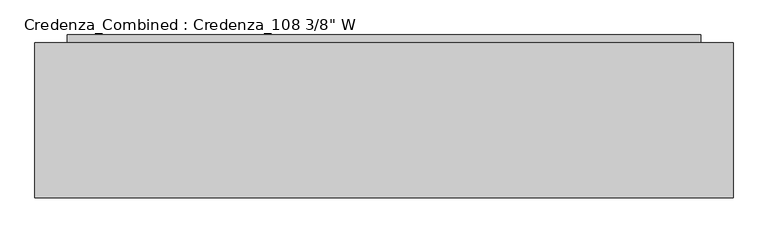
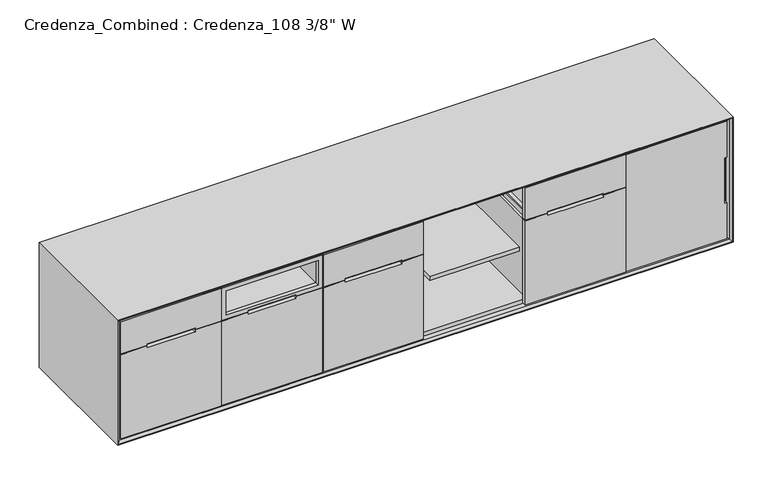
"""IFC4 building model written with IfcOpenShell, lengths in millimetres: furniture geometry."""

import ifcopenshell
import ifcopenshell.guid

model = None  # the IFC model being written
_history = None  # IfcOwnerHistory: only IFC2X3 demands one
_inside = {}  # id of a spatial element -> (the spatial element, [elements in it])
_under = {}  # id of a project, library or spatial element -> (it, [spatial elements below it])
_declared = {}  # id of a project -> (the project, [libraries it declares])
_typed = {}  # id of a type object -> (the type object, [elements of that type])
_made_of = {}  # id of a material, layer set ... -> (it, [elements and type objects made of it])


def new_model(schema):
    """Start an empty IFC model of exactly this schema.

    Asked for "IFC4X3", IfcOpenShell would pick the latest addendum, in which some entities
    have other attributes; the version numbers below select the first issue.
    IFC2X3 requires an IfcOwnerHistory on every rooted entity: one is made here for all.
    """
    global model, _history
    if schema == "IFC4X3":
        model = ifcopenshell.file(schema_version=(4, 3, 0, 0))
    else:
        model = ifcopenshell.file(schema=schema)
    _inside.clear()
    _under.clear()
    _declared.clear()
    _typed.clear()
    _made_of.clear()
    _history = None
    if model.schema == "IFC2X3":
        org = make("IfcOrganization", Name="unknown")
        user = make(
            "IfcPersonAndOrganization",
            ThePerson=make("IfcPerson", FamilyName="unknown"),
            TheOrganization=org,
        )
        app = make(
            "IfcApplication",
            ApplicationDeveloper=org,
            Version="unknown",
            ApplicationFullName="unknown",
            ApplicationIdentifier="unknown",
        )
        _history = make(
            "IfcOwnerHistory",
            OwningUser=user,
            OwningApplication=app,
            ChangeAction="ADDED",
            CreationDate=0,
        )
    return model


def make(cls, **values):
    """One entity of the class cls with the attributes given. An attribute that is None is left unset."""
    return model.create_entity(
        cls, **{name: value for name, value in values.items() if value is not None}
    )


def rooted(cls, **values):
    """An entity with a GlobalId (a new one), such as an element, a storey or a relation."""
    return make(cls, GlobalId=ifcopenshell.guid.new(), OwnerHistory=_history, **values)


def si_unit(unit_type, name, prefix=None):
    """IfcSIUnit, for example si_unit("LENGTHUNIT", "METRE", prefix="MILLI")."""
    return make("IfcSIUnit", UnitType=unit_type, Prefix=prefix, Name=name)


def assignment(units):
    """IfcUnitAssignment: the units of a project."""
    return None if units is None else make("IfcUnitAssignment", Units=units)


def point(xyz):
    """IfcCartesianPoint."""
    return None if xyz is None else make("IfcCartesianPoint", Coordinates=xyz)


def direction(xyz):
    """IfcDirection."""
    return None if xyz is None else make("IfcDirection", DirectionRatios=xyz)


def frame(location, z_axis=None, x_axis=None):
    """IfcAxis2Placement3D, a coordinate frame: its origin and axes. An axis left out is left unset."""
    return make(
        "IfcAxis2Placement3D",
        Location=point(location),
        Axis=direction(z_axis),
        RefDirection=direction(x_axis),
    )


def origin():
    """The frame at (0, 0, 0) with its axes left unset."""
    return frame((0.0, 0.0, 0.0))


def origin_with_axes():
    """The frame at (0, 0, 0) with the z axis (0, 0, 1) and the x axis (1, 0, 0) written out."""
    return frame((0.0, 0.0, 0.0), z_axis=(0.0, 0.0, 1.0), x_axis=(1.0, 0.0, 0.0))


def place(relative_to, where):
    """IfcLocalPlacement: puts the frame where relative to a parent placement (None: the world)."""
    return make(
        "IfcLocalPlacement", PlacementRelTo=relative_to, RelativePlacement=where
    )


def context(
    kind, dimensions, precision=None, world=None, true_north=None, identifier=None
):
    """IfcGeometricRepresentationContext, for example the 3D "Model" context."""
    return make(
        "IfcGeometricRepresentationContext",
        ContextIdentifier=identifier,
        ContextType=kind,
        CoordinateSpaceDimension=dimensions,
        Precision=precision,
        WorldCoordinateSystem=world,
        TrueNorth=true_north,
    )


def project(units=None, contexts=None):
    """IfcProject with its units and contexts."""
    return rooted(
        "IfcProject",
        Name="project",
        RepresentationContexts=contexts,
        UnitsInContext=assignment(units),
    )


def spatial(cls, under=None, at=None, **own):
    """A site, building, storey or space (cls), placed at a placement, below another one or the project."""
    s = rooted(cls, ObjectPlacement=at, **own)
    if under is not None:
        _under.setdefault(under.id(), (under, []))[1].append(s)
    return s


def polyline(points):
    """IfcPolyline through the points."""
    return make("IfcPolyline", Points=[point(p) for p in points])


def outline(outer, holes=None, kind="AREA"):
    """IfcArbitraryClosedProfileDef: a profile drawn as a closed curve; with holes, ...WithVoids."""
    if holes is None:
        return make("IfcArbitraryClosedProfileDef", ProfileType=kind, OuterCurve=outer)
    return make(
        "IfcArbitraryProfileDefWithVoids",
        ProfileType=kind,
        OuterCurve=outer,
        InnerCurves=holes,
    )


def extrude(swept, where, along, depth):
    """IfcExtrudedAreaSolid: the profile swept, set in the frame where, extruded along a direction by depth."""
    return make(
        "IfcExtrudedAreaSolid",
        SweptArea=swept,
        Position=where,
        ExtrudedDirection=direction(along),
        Depth=depth,
    )


def faces_of(points, faces, orient=None, outer=None):
    """IfcFace entities. A face is a list of loops; a loop is a list of indices into points, from 0.

    orient and outer hold one flag for each loop. By default every Orientation is true, the
    first loop of a face is its IfcFaceOuterBound and the others are IfcFaceBound.
    """
    made = []
    for i, loops in enumerate(faces):
        bounds = []
        for j, loop in enumerate(loops):
            is_outer = j == 0 if outer is None else outer[i][j]
            bounds.append(
                make(
                    "IfcFaceOuterBound" if is_outer else "IfcFaceBound",
                    Bound=make("IfcPolyLoop", Polygon=[points[k] for k in loop]),
                    Orientation=True if orient is None else orient[i][j],
                )
            )
        made.append(make("IfcFace", Bounds=bounds))
    return made


def faceted_brep(points, faces, orient=None, outer=None, voids=None):
    """IfcFacetedBrep: a solid bounded by flat faces; with voids (closed shells), ...WithVoids."""
    shared = [point(p) for p in points]
    hull = make("IfcClosedShell", CfsFaces=faces_of(shared, faces, orient, outer))
    if voids is None:
        return make("IfcFacetedBrep", Outer=hull)
    return make(
        "IfcFacetedBrepWithVoids",
        Outer=hull,
        Voids=[
            make(cls, CfsFaces=faces_of(shared, fs, o, b)) for cls, fs, o, b in voids
        ],
    )


def shape(context_of_items, identifier, shape_type, items):
    """IfcShapeRepresentation: the items that make up one representation, for example the "Body"."""
    return make(
        "IfcShapeRepresentation",
        ContextOfItems=context_of_items,
        RepresentationIdentifier=identifier,
        RepresentationType=shape_type,
        Items=items,
    )


def source(mapping_origin, context_of_items, identifier, shape_type, items):
    """IfcRepresentationMap: a shape defined once, which mapped items show again and again."""
    return make(
        "IfcRepresentationMap",
        MappingOrigin=mapping_origin,
        MappedRepresentation=shape(context_of_items, identifier, shape_type, items),
    )


def transform(
    local_origin,
    x_axis=None,
    y_axis=None,
    z_axis=None,
    scale=None,
    scale2=None,
    scale3=None,
    uniform=True,
):
    """IfcCartesianTransformationOperator3D, or its non-uniform kind. x_axis, y_axis, z_axis: its Axis1, 2, 3."""
    if uniform:
        return make(
            "IfcCartesianTransformationOperator3D",
            Axis1=direction(x_axis),
            Axis2=direction(y_axis),
            LocalOrigin=point(local_origin),
            Scale=scale,
            Axis3=direction(z_axis),
        )
    return make(
        "IfcCartesianTransformationOperator3DnonUniform",
        Axis1=direction(x_axis),
        Axis2=direction(y_axis),
        LocalOrigin=point(local_origin),
        Scale=scale,
        Axis3=direction(z_axis),
        Scale2=scale2,
        Scale3=scale3,
    )


def mapped(mapping_source, mapping_target):
    """IfcMappedItem: shows the shape of a source again, moved by a transform."""
    return make(
        "IfcMappedItem", MappingSource=mapping_source, MappingTarget=mapping_target
    )


def made_of(thing, what):
    """Note that an element or type object is made of a material, layer set ...; save() writes the relation."""
    if what is not None:
        _made_of.setdefault(what.id(), (what, []))[1].append(thing)
    return thing


def element(
    cls,
    number,
    at=None,
    inside=None,
    cuts=None,
    type_object=None,
    material=None,
    context=None,
    identifier="Body",
    shape_type=None,
    held_by="IfcProductDefinitionShape",
    body=None,
    shapes=None,
    **own,
):
    """One element of the class cls, such as IfcWall. Its Tag is "e" and its number.

    at: its placement. inside: the storey or other place that contains it. cuts: it is an
    opening in that element (IfcRelVoidsElement). A single representation is given by context,
    identifier, shape_type and body (its items); several are given by shapes. held_by: the class
    of the entity that holds the representations. save() writes the other relations.
    """
    e = rooted(cls, Tag="e%d" % number, ObjectPlacement=at, **own)
    if body is not None:
        shapes = [shape(context, identifier, shape_type, body)]
    if shapes is not None:
        e.Representation = make(held_by, Representations=shapes)
    if inside is not None:
        _inside.setdefault(inside.id(), (inside, []))[1].append(e)
    if cuts is not None:
        rooted(
            "IfcRelVoidsElement", RelatingBuildingElement=cuts, RelatedOpeningElement=e
        )
    if type_object is not None:
        _typed.setdefault(type_object.id(), (type_object, []))[1].append(e)
    return made_of(e, material)


def aggregate(whole, parts):
    """IfcRelAggregates: a whole, such as a stair, and the parts it consists of."""
    return rooted("IfcRelAggregates", RelatingObject=whole, RelatedObjects=parts)


def save(model, path):
    """Write the relations noted so far, then the file.

    IfcRelAggregates (storeys below a building ...), IfcRelContainedInSpatialStructure (elements
    in a storey), IfcRelDefinesByType, IfcRelAssociatesMaterial and IfcRelDeclares: one each for
    every whole, place, type object, material and project.
    """
    for whole, parts in _under.values():
        aggregate(whole, parts)
    for where, things in _inside.values():
        rooted(
            "IfcRelContainedInSpatialStructure",
            RelatedElements=things,
            RelatingStructure=where,
        )
    for kind, things in _typed.values():
        rooted("IfcRelDefinesByType", RelatedObjects=things, RelatingType=kind)
    for what, things in _made_of.values():
        rooted("IfcRelAssociatesMaterial", RelatedObjects=things, RelatingMaterial=what)
    for by, libraries in _declared.values():
        rooted("IfcRelDeclares", RelatingContext=by, RelatedDefinitions=libraries)
    model.write(path)


def furniture_e53a78da(model_context):
    return source(origin(), model_context, "Body", "SolidModel", [
        faceted_brep([(2730.5, 28.575, 659.60625), (2281.2375, 28.575, 659.60625), (2281.2375, 9.525, 659.60625), (2730.5, 9.525, 659.60625), (2730.5, 28.575, 105.56875), (2730.5, 9.525, 105.56875), (2281.2375, 9.525, 105.56875), (2281.2375, 28.575, 105.56875), (2730.5, 9.525, 274.6375), (2717.8, 9.525, 274.6375), (2717.8, 9.525, 490.5375), (2730.5, 9.525, 490.5375), (2730.5, 25.4, 490.5375), (2730.5, 25.4, 274.6375), (2717.8, 25.4, 490.5375), (2717.8, 25.4, 274.6375)], [[[0, 1, 2, 3]], [[4, 5, 6, 7]], [[1, 0, 4, 7]], [[2, 1, 7, 6]], [[3, 2, 6, 5, 8, 9, 10, 11]], [[0, 3, 11, 12, 13, 8, 5, 4]], [[12, 14, 15, 13]], [[14, 12, 11, 10]], [[15, 14, 10, 9]], [[13, 15, 9, 8]]]),
        extrude(outline(polyline([(2730.5, 609.6), (2730.5, 28.575), (2281.2375, 28.575), (2281.2375, 609.6), (2730.5, 609.6)])), frame((0.0, 0.0, 382.5875), z_axis=(0.0, 0.0, 1.0), x_axis=(1.0, 0.0, 0.0)), (0.0, 0.0, 1.0), 19.05),
        faceted_brep([(2202.7832407, 93.4200979, 124.61875), (2202.7832407, 244.7174021, 124.61875), (1904.0792593, 244.7174021, 124.61875), (1904.0792593, 93.4200979, 124.61875), (2208.8091657, 250.7433271, 118.26875), (2208.8091657, 87.3941729, 118.26875), (1898.0533343, 87.3941729, 118.26875), (1898.0533343, 250.7433271, 118.26875), (2241.4345885, 283.36875, 492.91875), (2241.4345885, 283.36875, 499.26875), (2241.4345885, 54.76875, 499.26875), (2241.4345885, 54.76875, 492.91875), (2228.7345885, 270.66875, 492.91875), (2228.7345885, 67.46875, 492.91875), (2222.7086635, 264.642825, 499.26875), (2222.7086635, 73.494675, 499.26875), (1865.4279115, 54.76875, 499.26875), (1865.4279115, 54.76875, 492.91875), (1878.1279115, 67.46875, 492.91875), (1884.1538365, 73.494675, 499.26875), (1865.4279115, 283.36875, 499.26875), (1865.4279115, 283.36875, 492.91875), (1878.1279115, 270.66875, 492.91875), (1884.1538365, 264.642825, 499.26875)], [[[0, 1, 2, 3]], [[4, 5, 6, 7]], [[8, 9, 10, 11]], [[4, 12, 13, 5]], [[14, 1, 0, 15]], [[11, 10, 16, 17]], [[5, 13, 18, 6]], [[15, 0, 3, 19]], [[17, 16, 20, 21]], [[6, 18, 22, 7]], [[19, 3, 2, 23]], [[9, 8, 21, 20]], [[8, 11, 17, 21], [13, 12, 22, 18]], [[12, 4, 7, 22]], [[1, 14, 23, 2]], [[10, 9, 20, 16], [14, 15, 19, 23]]]),
        faceted_brep([(2202.7832407, 383.9325979, 124.61875), (2202.7832407, 535.2299021, 124.61875), (1904.0792593, 535.2299021, 124.61875), (1904.0792593, 383.9325979, 124.61875), (2208.8091657, 541.2558271, 118.26875), (2208.8091657, 377.9066729, 118.26875), (1898.0533343, 377.9066729, 118.26875), (1898.0533343, 541.2558271, 118.26875), (2241.4345885, 573.88125, 492.91875), (2241.4345885, 573.88125, 499.26875), (2241.4345885, 345.28125, 499.26875), (2241.4345885, 345.28125, 492.91875), (2228.7345885, 561.18125, 492.91875), (2228.7345885, 357.98125, 492.91875), (2222.7086635, 555.155325, 499.26875), (2222.7086635, 364.007175, 499.26875), (1865.4279115, 345.28125, 499.26875), (1865.4279115, 345.28125, 492.91875), (1878.1279115, 357.98125, 492.91875), (1884.1538365, 364.007175, 499.26875), (1865.4279115, 573.88125, 499.26875), (1865.4279115, 573.88125, 492.91875), (1878.1279115, 561.18125, 492.91875), (1884.1538365, 555.155325, 499.26875)], [[[0, 1, 2, 3]], [[4, 5, 6, 7]], [[8, 9, 10, 11]], [[4, 12, 13, 5]], [[14, 1, 0, 15]], [[11, 10, 16, 17]], [[5, 13, 18, 6]], [[15, 0, 3, 19]], [[17, 16, 20, 21]], [[6, 18, 22, 7]], [[19, 3, 2, 23]], [[9, 8, 21, 20]], [[8, 11, 17, 21], [13, 12, 22, 18]], [[12, 4, 7, 22]], [[1, 14, 23, 2]], [[10, 9, 20, 16], [14, 15, 19, 23]]]),
        extrude(outline(polyline([(2246.3125, 319.0875), (2246.3125, 300.0375), (1858.9625, 300.0375), (1858.9625, 319.0875), (2246.3125, 319.0875)])), frame((0.0, 0.0, 118.26875), z_axis=(0.0, 0.0, 1.0), x_axis=(1.0, 0.0, 0.0)), (0.0, 0.0, 1.0), 360.3625),
        faceted_brep([(2260.6, 609.6, 478.63125), (1846.2625, 609.6, 478.63125), (1846.2625, 28.575, 478.63125), (2260.6, 28.575, 478.63125), (1858.9625, 596.9, 478.63125), (2246.3125, 596.9, 478.63125), (2246.3125, 41.275, 478.63125), (1858.9625, 41.275, 478.63125), (2260.6, 609.6, 105.56875), (1846.2625, 609.6, 105.56875), (1846.2625, 28.575, 105.56875), (2260.6, 28.575, 105.56875), (1858.9625, 596.9, 118.26875), (2246.3125, 596.9, 118.26875), (2246.3125, 41.275, 118.26875), (1858.9625, 41.275, 118.26875)], [[[0, 1, 2, 3], [4, 5, 6, 7]], [[1, 0, 8, 9]], [[2, 1, 9, 10]], [[3, 2, 10, 11]], [[8, 0, 3, 11]], [[5, 4, 12, 13]], [[6, 5, 13, 14]], [[7, 6, 14, 15]], [[4, 7, 15, 12]], [[13, 12, 15, 14]], [[8, 11, 10, 9]]]),
        extrude(outline(polyline([(504.03125, 1828.8), (105.56875, 1828.8), (105.56875, 2278.0625), (504.03125, 2278.0625), (504.03125, 2180.43125), (494.7030946, 2180.43125), (494.7030946, 1926.43125), (504.03125, 1926.43125), (504.03125, 1828.8)])), frame((0.0, 9.525, 0.0), z_axis=(0.0, 1.0, 0.0), x_axis=(0.0, 0.0, 1.0)), (0.0, 0.0, 1.0), 19.05),
        extrude(outline(polyline([(659.60625, 2278.0625), (659.60625, 1828.8), (507.20625, 1828.8), (507.20625, 1926.43125), (513.3594054, 1926.43125), (513.3594054, 2180.43125), (507.20625, 2180.43125), (507.20625, 2278.0625), (659.60625, 2278.0625)])), frame((0.0, 9.525, 0.0), z_axis=(0.0, 1.0, 0.0), x_axis=(0.0, 0.0, 1.0)), (0.0, 0.0, 1.0), 19.05),
        extrude(outline(polyline([(1801.01875, 609.6), (1801.01875, 9.525), (1400.96875, 9.525), (1400.96875, 609.6), (1801.01875, 609.6)])), frame((0.0, 0.0, 371.475), z_axis=(0.0, 0.0, 1.0), x_axis=(1.0, 0.0, 0.0)), (0.0, 0.0, 1.0), 19.05),
        faceted_brep([(1297.9082407, 93.4200979, 124.61875), (1297.9082407, 244.7174021, 124.61875), (999.2042593, 244.7174021, 124.61875), (999.2042593, 93.4200979, 124.61875), (1303.9341657, 250.7433271, 118.26875), (1303.9341657, 87.3941729, 118.26875), (993.1783343, 87.3941729, 118.26875), (993.1783343, 250.7433271, 118.26875), (1336.5595885, 283.36875, 492.91875), (1336.5595885, 283.36875, 499.26875), (1336.5595885, 54.76875, 499.26875), (1336.5595885, 54.76875, 492.91875), (1323.8595885, 270.66875, 492.91875), (1323.8595885, 67.46875, 492.91875), (1317.8336635, 264.642825, 499.26875), (1317.8336635, 73.494675, 499.26875), (960.5529115, 54.76875, 499.26875), (960.5529115, 54.76875, 492.91875), (973.2529115, 67.46875, 492.91875), (979.2788365, 73.494675, 499.26875), (960.5529115, 283.36875, 499.26875), (960.5529115, 283.36875, 492.91875), (973.2529115, 270.66875, 492.91875), (979.2788365, 264.642825, 499.26875)], [[[0, 1, 2, 3]], [[4, 5, 6, 7]], [[8, 9, 10, 11]], [[4, 12, 13, 5]], [[14, 1, 0, 15]], [[11, 10, 16, 17]], [[5, 13, 18, 6]], [[15, 0, 3, 19]], [[17, 16, 20, 21]], [[6, 18, 22, 7]], [[19, 3, 2, 23]], [[9, 8, 21, 20]], [[8, 11, 17, 21], [13, 12, 22, 18]], [[12, 4, 7, 22]], [[1, 14, 23, 2]], [[10, 9, 20, 16], [14, 15, 19, 23]]]),
        faceted_brep([(1297.9082407, 383.9325979, 124.61875), (1297.9082407, 535.2299021, 124.61875), (999.2042593, 535.2299021, 124.61875), (999.2042593, 383.9325979, 124.61875), (1303.9341657, 541.2558271, 118.26875), (1303.9341657, 377.9066729, 118.26875), (993.1783343, 377.9066729, 118.26875), (993.1783343, 541.2558271, 118.26875), (1336.5595885, 573.88125, 492.91875), (1336.5595885, 573.88125, 499.26875), (1336.5595885, 345.28125, 499.26875), (1336.5595885, 345.28125, 492.91875), (1323.8595885, 561.18125, 492.91875), (1323.8595885, 357.98125, 492.91875), (1317.8336635, 555.155325, 499.26875), (1317.8336635, 364.007175, 499.26875), (960.5529115, 345.28125, 499.26875), (960.5529115, 345.28125, 492.91875), (973.2529115, 357.98125, 492.91875), (979.2788365, 364.007175, 499.26875), (960.5529115, 573.88125, 499.26875), (960.5529115, 573.88125, 492.91875), (973.2529115, 561.18125, 492.91875), (979.2788365, 555.155325, 499.26875)], [[[0, 1, 2, 3]], [[4, 5, 6, 7]], [[8, 9, 10, 11]], [[4, 12, 13, 5]], [[14, 1, 0, 15]], [[11, 10, 16, 17]], [[5, 13, 18, 6]], [[15, 0, 3, 19]], [[17, 16, 20, 21]], [[6, 18, 22, 7]], [[19, 3, 2, 23]], [[9, 8, 21, 20]], [[8, 11, 17, 21], [13, 12, 22, 18]], [[12, 4, 7, 22]], [[1, 14, 23, 2]], [[10, 9, 20, 16], [14, 15, 19, 23]]]),
        extrude(outline(polyline([(1341.4375, 319.0875), (1341.4375, 300.0375), (954.0875, 300.0375), (954.0875, 319.0875), (1341.4375, 319.0875)])), frame((0.0, 0.0, 118.26875), z_axis=(0.0, 0.0, 1.0), x_axis=(1.0, 0.0, 0.0)), (0.0, 0.0, 1.0), 360.3625),
        faceted_brep([(1355.725, 609.6, 478.63125), (941.3875, 609.6, 478.63125), (941.3875, 28.575, 478.63125), (1355.725, 28.575, 478.63125), (954.0875, 596.9, 478.63125), (1341.4375, 596.9, 478.63125), (1341.4375, 41.275, 478.63125), (954.0875, 41.275, 478.63125), (1355.725, 609.6, 105.56875), (941.3875, 609.6, 105.56875), (941.3875, 28.575, 105.56875), (1355.725, 28.575, 105.56875), (954.0875, 596.9, 118.26875), (1341.4375, 596.9, 118.26875), (1341.4375, 41.275, 118.26875), (954.0875, 41.275, 118.26875)], [[[0, 1, 2, 3], [4, 5, 6, 7]], [[1, 0, 8, 9]], [[2, 1, 9, 10]], [[3, 2, 10, 11]], [[8, 0, 3, 11]], [[5, 4, 12, 13]], [[6, 5, 13, 14]], [[7, 6, 14, 15]], [[4, 7, 15, 12]], [[13, 12, 15, 14]], [[8, 11, 10, 9]]]),
        extrude(outline(polyline([(504.03125, 923.925), (105.56875, 923.925), (105.56875, 1373.1875), (504.03125, 1373.1875), (504.03125, 1275.55625), (494.7030946, 1275.55625), (494.7030946, 1021.55625), (504.03125, 1021.55625), (504.03125, 923.925)])), frame((0.0, 9.525, 0.0), z_axis=(0.0, 1.0, 0.0), x_axis=(0.0, 0.0, 1.0)), (0.0, 0.0, 1.0), 19.05),
        extrude(outline(polyline([(659.60625, 1373.1875), (659.60625, 923.925), (507.20625, 923.925), (507.20625, 1021.55625), (513.3594054, 1021.55625), (513.3594054, 1275.55625), (507.20625, 1275.55625), (507.20625, 1373.1875), (659.60625, 1373.1875)])), frame((0.0, 9.525, 0.0), z_axis=(0.0, 1.0, 0.0), x_axis=(0.0, 0.0, 1.0)), (0.0, 0.0, 1.0), 19.05),
        extrude(outline(polyline([(903.2875, 609.6), (903.2875, 28.575), (488.95, 28.575), (488.95, 609.6), (903.2875, 609.6)]), holes=[polyline([(501.65, 596.9), (501.65, 41.275), (889.0, 41.275), (889.0, 596.9), (501.65, 596.9)])]), frame((0.0, 0.0, 118.26875), z_axis=(0.0, 0.0, 1.0), x_axis=(1.0, 0.0, 0.0)), (0.0, 0.0, 1.0), 360.3625),
        extrude(outline(polyline([(642.14375, 903.2875), (642.14375, 488.95), (524.66875, 488.95), (524.66875, 903.2875), (642.14375, 903.2875)]), holes=[polyline([(640.55625, 901.7), (526.25625, 901.7), (526.25625, 490.5375), (640.55625, 490.5375), (640.55625, 901.7)])]), frame((0.0, 28.575, 0.0), z_axis=(0.0, 1.0, 0.0), x_axis=(0.0, 0.0, 1.0)), (0.0, 0.0, 1.0), 581.025),
        extrude(outline(polyline([(504.03125, 471.4875), (105.56875, 471.4875), (105.56875, 920.75), (504.03125, 920.75), (504.03125, 804.06875), (494.7030946, 804.06875), (494.7030946, 588.16875), (504.03125, 588.16875), (504.03125, 471.4875)])), frame((0.0, 9.525, 0.0), z_axis=(0.0, 1.0, 0.0), x_axis=(0.0, 0.0, 1.0)), (0.0, 0.0, 1.0), 19.05),
        extrude(outline(polyline([(659.60625, 920.75), (659.60625, 471.4875), (507.20625, 471.4875), (507.20625, 588.16875), (513.3594054, 588.16875), (513.3594054, 804.06875), (507.20625, 804.06875), (507.20625, 920.75), (659.60625, 920.75)]), holes=[polyline([(640.55625, 490.5375), (640.55625, 901.7), (526.25625, 901.7), (526.25625, 490.5375), (640.55625, 490.5375)])]), frame((0.0, 9.525, 0.0), z_axis=(0.0, 1.0, 0.0), x_axis=(0.0, 0.0, 1.0)), (0.0, 0.0, 1.0), 19.05),
        extrude(outline(polyline([(2625.725, 609.6), (2625.725, 241.3), (127.0, 241.3), (127.0, 609.6), (2625.725, 609.6)])), origin_with_axes(), (0.0, 0.0, 1.0), 87.3125),
        extrude(outline(polyline([(2625.725, 641.35), (2625.725, 609.6), (127.0, 609.6), (127.0, 641.35), (2625.725, 641.35)])), origin_with_axes(), (0.0, 0.0, 1.0), 647.7),
        extrude(outline(polyline([(665.1625, 2740.025), (665.1625, 12.7), (100.0125, 12.7), (100.0125, 2740.025), (665.1625, 2740.025)]), holes=[polyline([(646.1125, 31.75), (646.1125, 2720.975), (119.0625, 2720.975), (119.0625, 31.75), (646.1125, 31.75)])]), frame((0.0, 31.75, 0.0), z_axis=(0.0, 1.0, 0.0), x_axis=(0.0, 0.0, 1.0)), (0.0, 0.0, 1.0), 577.85),
        faceted_brep([(2740.025, 9.525, 665.1625), (2740.025, 609.6, 665.1625), (2740.025, 609.6, 100.0125), (2740.025, 9.525, 100.0125), (2749.55, 0.0, 674.6875), (2749.55, 0.0, 90.4875), (2752.725, 609.6, 677.8625), (2752.725, 0.0, 677.8625), (2752.725, 0.0, 87.3125), (2752.725, 609.6, 87.3125), (12.7, 609.6, 100.0125), (12.7, 9.525, 100.0125), (3.175, 0.0, 90.4875), (0.0, 0.0, 87.3125), (0.0, 609.6, 87.3125), (12.7, 609.6, 665.1625), (12.7, 9.525, 665.1625), (3.175, 0.0, 674.6875), (0.0, 0.0, 677.8625), (0.0, 609.6, 677.8625)], [[[0, 1, 2, 3]], [[4, 0, 3, 5]], [[6, 7, 8, 9]], [[3, 2, 10, 11]], [[5, 3, 11, 12]], [[9, 8, 13, 14]], [[11, 10, 15, 16]], [[12, 11, 16, 17]], [[14, 13, 18, 19]], [[9, 14, 19, 6], [1, 15, 10, 2]], [[16, 15, 1, 0]], [[17, 16, 0, 4]], [[7, 18, 13, 8], [5, 12, 17, 4]], [[19, 18, 7, 6]]]),
        faceted_brep([(450.85, 609.6, 478.63125), (36.5125, 609.6, 478.63125), (36.5125, 28.575, 478.63125), (450.85, 28.575, 478.63125), (49.2125, 596.9, 478.63125), (436.5625, 596.9, 478.63125), (436.5625, 41.275, 478.63125), (49.2125, 41.275, 478.63125), (450.85, 609.6, 105.56875), (36.5125, 609.6, 105.56875), (36.5125, 28.575, 105.56875), (450.85, 28.575, 105.56875), (49.2125, 596.9, 118.26875), (436.5625, 596.9, 118.26875), (436.5625, 41.275, 118.26875), (49.2125, 41.275, 118.26875)], [[[0, 1, 2, 3], [4, 5, 6, 7]], [[1, 0, 8, 9]], [[2, 1, 9, 10]], [[3, 2, 10, 11]], [[8, 0, 3, 11]], [[5, 4, 12, 13]], [[6, 5, 13, 14]], [[7, 6, 14, 15]], [[4, 7, 15, 12]], [[13, 12, 15, 14]], [[8, 11, 10, 9]]]),
        faceted_brep([(436.5625, 596.9, 519.90625), (49.2125, 596.9, 519.90625), (49.2125, 41.275, 519.90625), (436.5625, 41.275, 519.90625), (450.85, 609.6, 507.20625), (450.85, 28.575, 507.20625), (36.5125, 28.575, 507.20625), (36.5125, 609.6, 507.20625), (36.5125, 609.6, 634.20625), (450.85, 609.6, 634.20625), (36.5125, 28.575, 634.20625), (450.85, 28.575, 634.20625), (49.2125, 596.9, 634.20625), (436.5625, 596.9, 634.20625), (436.5625, 41.275, 634.20625), (49.2125, 41.275, 634.20625)], [[[0, 1, 2, 3]], [[4, 5, 6, 7]], [[4, 7, 8, 9]], [[8, 7, 6, 10]], [[10, 6, 5, 11]], [[11, 5, 4, 9]], [[9, 8, 10, 11], [12, 13, 14, 15]], [[13, 12, 1, 0]], [[14, 13, 0, 3]], [[15, 14, 3, 2]], [[12, 15, 2, 1]]]),
        extrude(outline(polyline([(504.03125, 19.05), (105.56875, 19.05), (105.56875, 468.3125), (504.03125, 468.3125), (504.03125, 351.63125), (494.7030946, 351.63125), (494.7030946, 135.73125), (504.03125, 135.73125), (504.03125, 19.05)])), frame((0.0, 9.525, 0.0), z_axis=(0.0, 1.0, 0.0), x_axis=(0.0, 0.0, 1.0)), (0.0, 0.0, 1.0), 19.05),
        extrude(outline(polyline([(659.60625, 468.3125), (659.60625, 19.05), (507.20625, 19.05), (507.20625, 135.73125), (513.3594054, 135.73125), (513.3594054, 351.63125), (507.20625, 351.63125), (507.20625, 468.3125), (659.60625, 468.3125)])), frame((0.0, 9.525, 0.0), z_axis=(0.0, 1.0, 0.0), x_axis=(0.0, 0.0, 1.0)), (0.0, 0.0, 1.0), 19.05),
    ])


if __name__ == "__main__":
    model = new_model("IFC4")
    model_context = context("Model", 3, world=origin())
    ifc_project = project(units=[si_unit("LENGTHUNIT", "METRE", prefix="MILLI")], contexts=[model_context])
    site = spatial("IfcSite", under=ifc_project)
    building = spatial("IfcBuilding", under=site)
    placement = place(None, origin())
    furniture_shape = furniture_e53a78da(model_context)
    element("IfcFurniture", 1, ObjectType="Credenza_Combined : Credenza_108 3/8\" W", at=placement, inside=building, context=model_context, shape_type="MappedRepresentation", body=[
        mapped(furniture_shape, transform((0.0, 0.0, 0.0), x_axis=(1.0, 0.0, 0.0), y_axis=(0.0, 1.0, 0.0), z_axis=(0.0, 0.0, 1.0))),
    ])
    save(model, "model.ifc")
